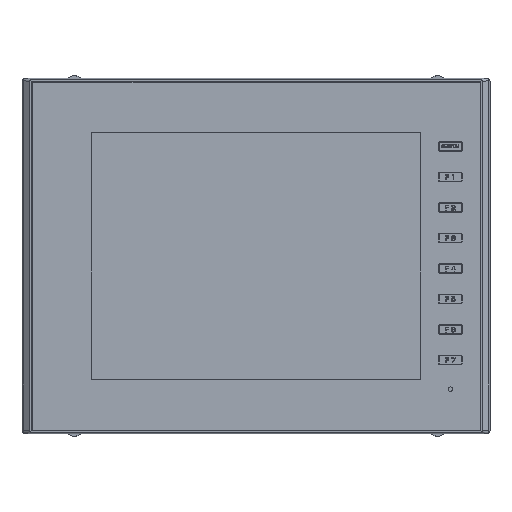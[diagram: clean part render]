
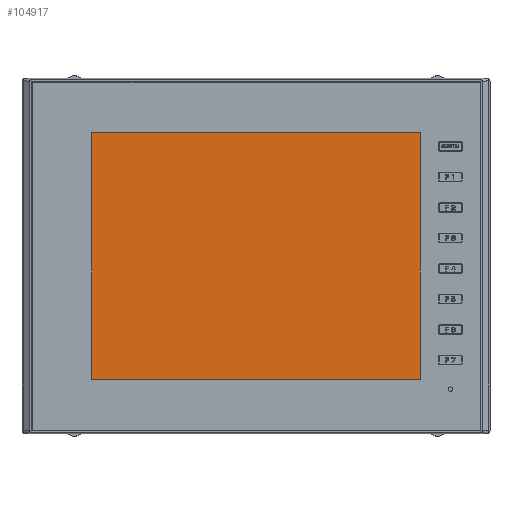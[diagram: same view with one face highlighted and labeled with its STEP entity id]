
A CAD part, top view. The second image highlights one B-rep face of the part: STEP entity #104917.
In plain terms, the highlighted planar face has unit normal (0, 0, 1).
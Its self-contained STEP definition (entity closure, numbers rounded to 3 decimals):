
#37435=DIRECTION('',(0.,1.,0.));
#37436=VECTOR('',#37435,160.2);
#37437=CARTESIAN_POINT('',(106.7,-80.1,5.638));
#37438=LINE('',#37437,#37436);
#37439=DIRECTION('',(1.,0.,0.));
#37440=VECTOR('',#37439,213.4);
#37441=CARTESIAN_POINT('',(-106.7,-80.1,5.638));
#37442=LINE('',#37441,#37440);
#37443=DIRECTION('',(0.,-1.,0.));
#37444=VECTOR('',#37443,160.2);
#37445=CARTESIAN_POINT('',(-106.7,80.1,5.638));
#37446=LINE('',#37445,#37444);
#37447=DIRECTION('',(-1.,0.,0.));
#37448=VECTOR('',#37447,213.4);
#37449=CARTESIAN_POINT('',(106.7,80.1,5.638));
#37450=LINE('',#37449,#37448);
#52987=CARTESIAN_POINT('',(106.7,-80.1,5.638));
#52988=CARTESIAN_POINT('',(106.7,80.1,5.638));
#52989=VERTEX_POINT('',#52987);
#52990=VERTEX_POINT('',#52988);
#52991=CARTESIAN_POINT('',(-106.7,80.1,5.638));
#52992=VERTEX_POINT('',#52991);
#52993=CARTESIAN_POINT('',(-106.7,-80.1,5.638));
#52994=VERTEX_POINT('',#52993);
#104906=CARTESIAN_POINT('',(0.,0.,5.638));
#104907=DIRECTION('',(0.,0.,1.));
#104908=DIRECTION('',(1.,0.,0.));
#104909=AXIS2_PLACEMENT_3D('',#104906,#104907,#104908);
#104910=PLANE('',#104909);
#104911=ORIENTED_EDGE('',*,*,#104858,.F.);
#104912=ORIENTED_EDGE('',*,*,#104873,.F.);
#104913=ORIENTED_EDGE('',*,*,#104887,.F.);
#104914=ORIENTED_EDGE('',*,*,#104900,.F.);
#104915=EDGE_LOOP('',(#104911,#104912,#104913,#104914));
#104916=FACE_OUTER_BOUND('',#104915,.F.);
#104917=ADVANCED_FACE('',(#104916),#104910,.T.);
#104858=EDGE_CURVE('',#52989,#52990,#37438,.T.);
#104873=EDGE_CURVE('',#52994,#52989,#37442,.T.);
#104887=EDGE_CURVE('',#52992,#52994,#37446,.T.);
#104900=EDGE_CURVE('',#52990,#52992,#37450,.T.);
